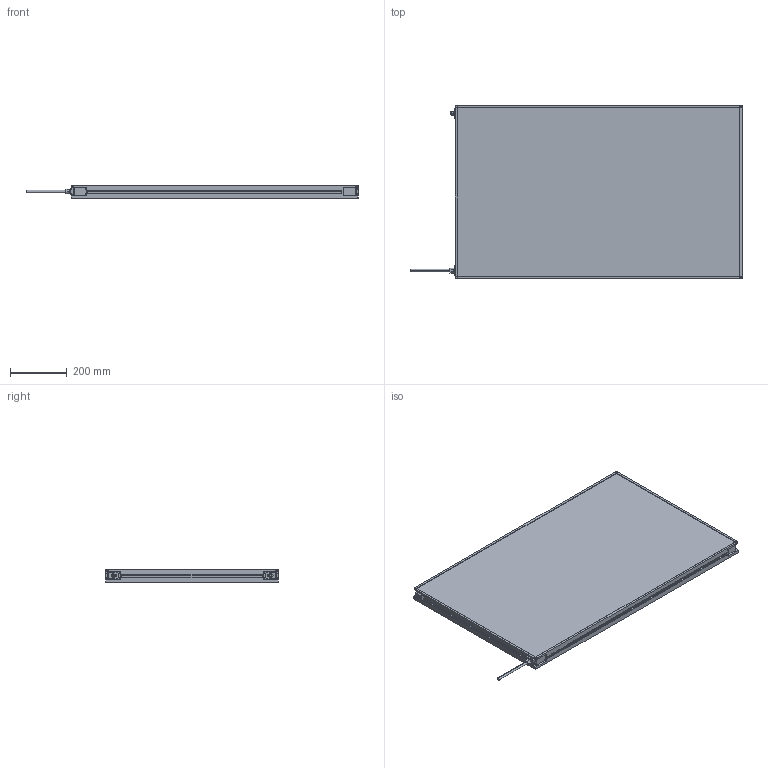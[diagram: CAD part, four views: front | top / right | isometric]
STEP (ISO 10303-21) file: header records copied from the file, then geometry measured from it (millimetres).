
FILE_DESCRIPTION (( 'STEP AP214' ), '1' );
FILE_NAME ('MBACK-xxxx-xxx-M1A2_CLIENT600x1000.STEP', '2022-04-01T11:44:49', ( '' ), ( '' ), 'SwSTEP 2.0', 'SolidWorks 2020', '' );
FILE_SCHEMA (( 'AUTOMOTIVE_DESIGN' ));
Length unit declared in the file: millimetre
Products named in the file (1): MBACK-xxxx-xxx-M1A2_CLIENT600x1000
Bounding box: 1167.4 x 608 x 45.5 mm (x, y, z)
Volume: 25529097 mm3; surface area: 1446321.2 mm2
Topology: 1 solids, 1 shells, 470 faces, 1210 edges, 804 vertices
Faces by surface type: plane 265, cylinder 117, bspline 80, cone 8
Entity records: 18046 total; most frequent: CARTESIAN_POINT 6837, ORIENTED_EDGE 2420, DIRECTION 2082, EDGE_CURVE 1210, VERTEX_POINT 804, LINE 800, VECTOR 800, AXIS2_PLACEMENT_3D 641
